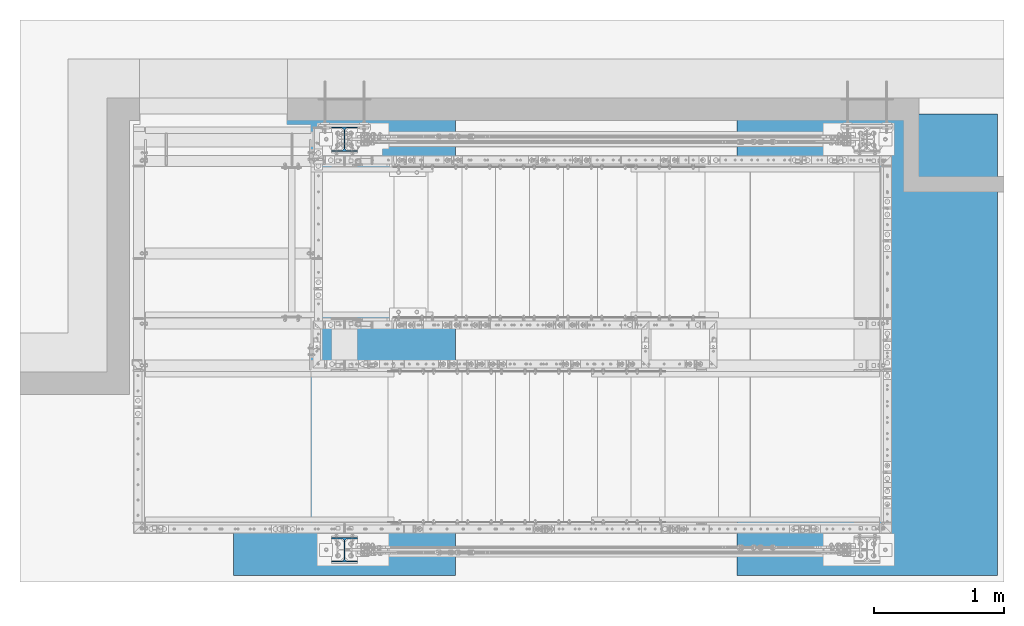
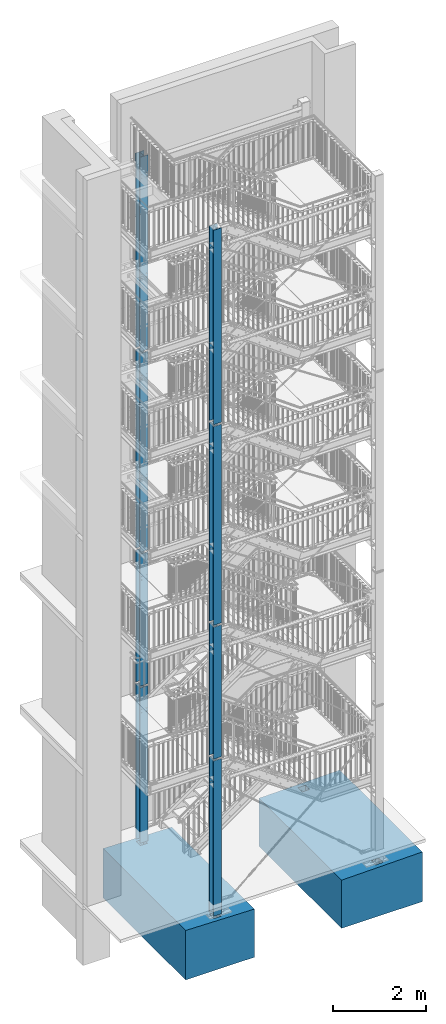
# One storey, part 1 of 817: 8 columns, 2 footings, 64 openings.
"""IFC2X3 building model written with IfcOpenShell, lengths in millimetres."""

from ifc_helpers import new_model, entity, si_unit, converted_unit, frame, origin, origin_with_axes, origin_2d, origin_2d_with_axis, place, context, project, spatial, polyline, circle, i_section, outline, extrude, clip, halfspace, material, layer, layer_set, element, save


model = new_model("IFC2X3")

# Units and contexts
model_context = context("Model", 3, precision=1e-09, world=origin_with_axes())
ifc_project = project(units=[si_unit("LENGTHUNIT", "METRE", prefix="MILLI"), si_unit("AREAUNIT", "SQUARE_METRE"), si_unit("VOLUMEUNIT", "CUBIC_METRE"), converted_unit("PLANEANGLEUNIT", "DEGREE", entity("IfcPlaneAngleMeasure", 0.01745329), si_unit("PLANEANGLEUNIT", "RADIAN"), dimensions=[0, 0, 0, 0, 0, 0, 0])], contexts=[model_context])

# Site, building, storey
site_placement = place(None, origin_with_axes())
site = spatial("IfcSite", under=ifc_project, at=site_placement, Name="Cnopf'sche Kinderklinik", CompositionType="ELEMENT")
building_placement = place(site_placement, origin_with_axes())
building = spatial("IfcBuilding", under=site, at=building_placement, Name="Struktur 1", CompositionType="ELEMENT")
storey_placement = place(building_placement, origin_with_axes())
storey = spatial("IfcBuildingStorey", under=building, at=storey_placement, Name="Default Storey", CompositionType="ELEMENT", Elevation=0.0)

# Footing, openings
ifc_material_1 = material(Name="C20/25")
ifc_layer = layer(ifc_material_1, 1300.0)
ifc_layer_set = layer_set([ifc_layer], Name="C20/25")
footing_1_placement = place(None, frame((8866.713402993, 5941.736971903, -1280.0), z_axis=(0.0, 0.0, 1.0), x_axis=(1.0, 0.0, 0.0)))
footing_1 = element("IfcFooting", 1, at=footing_1_placement, inside=storey, material=ifc_layer_set, Name="Foundation", ObjectType="Foundation", context=model_context, shape_type="SweptSolid", body=[
    extrude(outline(polyline([(-1000.0, -1770.0), (1000.0, -1770.0), (1000.0, 1770.0), (-1000.0, 1770.0), (-1000.0, -1770.0)])), origin_with_axes(), (0.0, 0.0, 1.0), 1300.0),
])
opening_1_placement = place(footing_1_placement, frame((0.0, 1770.1, 650.0), z_axis=(0.0, -1.0, 0.0), x_axis=(1.0, 0.0, 0.0)))
element("IfcOpeningElement", 2, at=opening_1_placement, cuts=footing_1, ObjectType="Opening", context=model_context, shape_type="SweptSolid", body=[
    extrude(outline(polyline([(-1237.486642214, 605.249266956), (1326.252549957, 656.524050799), (1326.252549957, 820.352725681), (-1212.417197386, 820.352725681), (-1237.486642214, 605.249266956)])), origin(), (0.0, 0.0, 1.0), 3540.2),
])
opening_2_placement = place(footing_1_placement, frame((0.0, 0.0, 1090.0), z_axis=(0.0, 0.0, 1.0), x_axis=(1.0, 0.0, 0.0)))
element("IfcOpeningElement", 3, at=opening_2_placement, cuts=footing_1, ObjectType="Opening", context=model_context, shape_type="SweptSolid", body=[
    extrude(outline(polyline([(-90.001, 1484.999), (90.001, 1484.999), (90.001, 1665.001), (-90.001, 1665.001), (-90.001, 1484.999)])), origin(), (0.0, 0.0, 1.0), 210.1),
])
opening_3_placement = place(footing_1_placement, frame((0.0, 0.0, 1090.0), z_axis=(0.0, 0.0, 1.0), x_axis=(1.0, 0.0, 0.0)))
element("IfcOpeningElement", 4, at=opening_3_placement, cuts=footing_1, ObjectType="Opening", context=model_context, shape_type="SweptSolid", body=[
    extrude(outline(polyline([(-90.001, -1665.001), (90.001, -1665.001), (90.001, -1484.999), (-90.001, -1484.999), (-90.001, -1665.001)])), origin(), (0.0, 0.0, 1.0), 210.1),
])

footing_2_placement = place(None, frame((4856.713402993, 5941.736971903, -1280.0), z_axis=(0.0, 0.0, 1.0), x_axis=(1.0, 0.0, 0.0)))
footing_2 = element("IfcFooting", 5, at=footing_2_placement, inside=storey, material=ifc_layer_set, Name="Foundation", ObjectType="Foundation", context=model_context, shape_type="SweptSolid", body=[
    extrude(outline(polyline([(-850.0, -1770.0), (850.0, -1770.0), (850.0, 1770.0), (-850.0, 1770.0), (-850.0, -1770.0)])), origin_with_axes(), (0.0, 0.0, 1.0), 1300.0),
])
opening_4_placement = place(footing_2_placement, frame((0.0, 1770.1, 650.0), z_axis=(0.0, -1.0, 0.0), x_axis=(1.0, 0.0, 0.0)))
element("IfcOpeningElement", 6, at=opening_4_placement, cuts=footing_2, ObjectType="Opening", context=model_context, shape_type="SweptSolid", body=[
    extrude(outline(polyline([(1029.872382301, 800.718084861), (-1082.160017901, 800.718084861), (-1082.160017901, 649.778764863), (1172.238609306, 603.364675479), (1029.872382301, 800.718084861)])), origin(), (0.0, 0.0, 1.0), 3540.2),
])
opening_5_placement = place(footing_2_placement, frame((0.0, 0.0, 1090.0), z_axis=(0.0, 0.0, 1.0), x_axis=(1.0, 0.0, 0.0)))
element("IfcOpeningElement", 7, at=opening_5_placement, cuts=footing_2, ObjectType="Opening", context=model_context, shape_type="SweptSolid", body=[
    extrude(outline(polyline([(-90.001, -1665.001), (90.001, -1665.001), (90.001, -1484.999), (-90.001, -1484.999), (-90.001, -1665.001)])), origin(), (0.0, 0.0, 1.0), 210.1),
])
opening_6_placement = place(footing_2_placement, frame((0.0, 0.0, 1090.0), z_axis=(0.0, 0.0, 1.0), x_axis=(1.0, 0.0, 0.0)))
element("IfcOpeningElement", 8, at=opening_6_placement, cuts=footing_2, ObjectType="Opening", context=model_context, shape_type="SweptSolid", body=[
    extrude(outline(polyline([(-90.001, 1484.999), (90.001, 1484.999), (90.001, 1665.001), (-90.001, 1665.001), (-90.001, 1484.999)])), origin(), (0.0, 0.0, 1.0), 210.1),
])

# Column, openings
ifc_material_2 = material(Name="S235JR")
column_1_placement = place(None, frame((4856.713402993, 7516.736971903, 60.0), z_axis=(0.0, 0.0, -1.0), x_axis=(1.0, 0.0, 0.0)))
column_1 = element("IfcColumn", 9, at=column_1_placement, inside=storey, material=ifc_material_2, Name="Column", ObjectType="Column", context=model_context, shape_type="Clipping", body=[
    clip(extrude(i_section(OverallWidth=200.0, OverallDepth=190.0, WebThickness=6.5, FlangeThickness=10.0, FilletRadius=18.0, at=origin_2d()), origin(), (0.0, 0.0, -1.0), 4227.931142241), halfspace(frame((-4856.713402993, 7516.736971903, -4064.999), z_axis=(0.0, 0.0, 1.0), x_axis=(-1.0, 0.0, 0.0)), True)),
])
opening_7_placement = place(column_1_placement, frame((-3.75, 60.0, -12.0), z_axis=(1.0, 0.0, 0.0), x_axis=(0.0, 0.0, -1.0)))
element("IfcOpeningElement", 10, at=opening_7_placement, cuts=column_1, ObjectType="Opening", context=model_context, shape_type="SweptSolid", body=[
    extrude(circle(Radius=6.001, at=origin_2d_with_axis()), origin(), (0.0, 0.0, 1.0), 7.5),
])
opening_8_placement = place(column_1_placement, frame((-3.75, -60.0, -12.0), z_axis=(1.0, 0.0, 0.0), x_axis=(0.0, 0.0, -1.0)))
element("IfcOpeningElement", 11, at=opening_8_placement, cuts=column_1, ObjectType="Opening", context=model_context, shape_type="SweptSolid", body=[
    extrude(circle(Radius=6.001, at=origin_2d_with_axis()), origin(), (0.0, 0.0, 1.0), 7.5),
])
opening_9_placement = place(column_1_placement, frame((-60.0, 84.5, -3407.0), z_axis=(0.0, 1.0, 0.0), x_axis=(-1.0, 0.0, 0.0)))
element("IfcOpeningElement", 12, at=opening_9_placement, cuts=column_1, ObjectType="Opening", context=model_context, shape_type="SweptSolid", body=[
    extrude(circle(Radius=9.001, at=origin_2d_with_axis()), origin(), (0.0, 0.0, 1.0), 11.0),
])
opening_10_placement = place(column_1_placement, frame((60.0, 84.5, -3407.0), z_axis=(0.0, 1.0, 0.0), x_axis=(1.0, 0.0, 0.0)))
element("IfcOpeningElement", 13, at=opening_10_placement, cuts=column_1, ObjectType="Opening", context=model_context, shape_type="SweptSolid", body=[
    extrude(circle(Radius=9.001, at=origin_2d_with_axis()), origin(), (0.0, 0.0, 1.0), 11.0),
])
opening_11_placement = place(column_1_placement, frame((60.0, 84.5, -3497.0), z_axis=(0.0, 1.0, 0.0), x_axis=(1.0, 0.0, 0.0)))
element("IfcOpeningElement", 14, at=opening_11_placement, cuts=column_1, ObjectType="Opening", context=model_context, shape_type="SweptSolid", body=[
    extrude(circle(Radius=9.001, at=origin_2d_with_axis()), origin(), (0.0, 0.0, 1.0), 11.0),
])
opening_12_placement = place(column_1_placement, frame((-60.0, 84.5, -3497.0), z_axis=(0.0, 1.0, 0.0), x_axis=(-1.0, 0.0, 0.0)))
element("IfcOpeningElement", 15, at=opening_12_placement, cuts=column_1, ObjectType="Opening", context=model_context, shape_type="SweptSolid", body=[
    extrude(circle(Radius=9.001, at=origin_2d_with_axis()), origin(), (0.0, 0.0, 1.0), 11.0),
])

column_2_placement = place(None, frame((4856.713402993, 4366.736971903, 60.0), z_axis=(0.0, 0.0, -1.0), x_axis=(1.0, 0.0, 0.0)))
column_2 = element("IfcColumn", 16, at=column_2_placement, inside=storey, material=ifc_material_2, Name="Column", ObjectType="Column", context=model_context, shape_type="Clipping", body=[
    clip(extrude(i_section(OverallWidth=200.0, OverallDepth=190.0, WebThickness=6.5, FlangeThickness=10.0, FilletRadius=18.0, at=origin_2d()), origin(), (0.0, 0.0, -1.0), 4227.931142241), halfspace(frame((-4856.713402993, 4366.736971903, -4064.999), z_axis=(0.0, 0.0, 1.0), x_axis=(-1.0, 0.0, 0.0)), True)),
])
opening_13_placement = place(column_2_placement, frame((-3.75, 60.0, -12.0), z_axis=(1.0, 0.0, 0.0), x_axis=(0.0, 0.0, -1.0)))
element("IfcOpeningElement", 17, at=opening_13_placement, cuts=column_2, ObjectType="Opening", context=model_context, shape_type="SweptSolid", body=[
    extrude(circle(Radius=6.001, at=origin_2d_with_axis()), origin(), (0.0, 0.0, 1.0), 7.5),
])
opening_14_placement = place(column_2_placement, frame((-3.75, -60.0, -12.0), z_axis=(1.0, 0.0, 0.0), x_axis=(0.0, 0.0, -1.0)))
element("IfcOpeningElement", 18, at=opening_14_placement, cuts=column_2, ObjectType="Opening", context=model_context, shape_type="SweptSolid", body=[
    extrude(circle(Radius=6.001, at=origin_2d_with_axis()), origin(), (0.0, 0.0, 1.0), 7.5),
])
opening_15_placement = place(column_2_placement, frame((-60.0, -84.5, -3407.0), z_axis=(0.0, -1.0, 0.0), x_axis=(-1.0, 0.0, 0.0)))
element("IfcOpeningElement", 19, at=opening_15_placement, cuts=column_2, ObjectType="Opening", context=model_context, shape_type="SweptSolid", body=[
    extrude(circle(Radius=9.001, at=origin_2d_with_axis()), origin(), (0.0, 0.0, 1.0), 11.0),
])
opening_16_placement = place(column_2_placement, frame((60.0, -84.5, -3407.0), z_axis=(0.0, -1.0, 0.0), x_axis=(1.0, 0.0, 0.0)))
element("IfcOpeningElement", 20, at=opening_16_placement, cuts=column_2, ObjectType="Opening", context=model_context, shape_type="SweptSolid", body=[
    extrude(circle(Radius=9.001, at=origin_2d_with_axis()), origin(), (0.0, 0.0, 1.0), 11.0),
])
opening_17_placement = place(column_2_placement, frame((60.0, -84.5, -3497.0), z_axis=(0.0, -1.0, 0.0), x_axis=(1.0, 0.0, 0.0)))
element("IfcOpeningElement", 21, at=opening_17_placement, cuts=column_2, ObjectType="Opening", context=model_context, shape_type="SweptSolid", body=[
    extrude(circle(Radius=9.001, at=origin_2d_with_axis()), origin(), (0.0, 0.0, 1.0), 11.0),
])
opening_18_placement = place(column_2_placement, frame((-60.0, -84.5, -3497.0), z_axis=(0.0, -1.0, 0.0), x_axis=(-1.0, 0.0, 0.0)))
element("IfcOpeningElement", 22, at=opening_18_placement, cuts=column_2, ObjectType="Opening", context=model_context, shape_type="SweptSolid", body=[
    extrude(circle(Radius=9.001, at=origin_2d_with_axis()), origin(), (0.0, 0.0, 1.0), 11.0),
])

column_3_placement = place(None, frame((4856.713402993, 4366.736971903, 4012.068857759), z_axis=(0.0, 0.0, -1.0), x_axis=(1.0, 0.0, 0.0)))
column_3 = element("IfcColumn", 23, at=column_3_placement, inside=storey, material=ifc_material_2, Name="Column", ObjectType="Column", context=model_context, shape_type="Clipping", body=[
    clip(clip(extrude(i_section(OverallWidth=200.0, OverallDepth=190.0, WebThickness=6.5, FlangeThickness=10.0, FilletRadius=18.0, at=origin_2d()), origin(), (0.0, 0.0, -1.0), 3775.862284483), halfspace(frame((-4856.713402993, 4366.736971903, -162.932142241), z_axis=(0.0, 0.0, -1.0), x_axis=(1.0, 0.0, 0.0)), True)), halfspace(frame((-4856.713402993, 4366.736971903, -3612.930142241), z_axis=(0.0, 0.0, 1.0), x_axis=(-1.0, 0.0, 0.0)), True)),
])
opening_19_placement = place(column_3_placement, frame((-60.0, -84.5, -3017.931142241), z_axis=(0.0, -1.0, 0.0), x_axis=(-1.0, 0.0, 0.0)))
element("IfcOpeningElement", 24, at=opening_19_placement, cuts=column_3, ObjectType="Opening", context=model_context, shape_type="SweptSolid", body=[
    extrude(circle(Radius=9.001, at=origin_2d_with_axis()), origin(), (0.0, 0.0, 1.0), 11.0),
])
opening_20_placement = place(column_3_placement, frame((60.0, -84.5, -3017.931142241), z_axis=(0.0, -1.0, 0.0), x_axis=(1.0, 0.0, 0.0)))
element("IfcOpeningElement", 25, at=opening_20_placement, cuts=column_3, ObjectType="Opening", context=model_context, shape_type="SweptSolid", body=[
    extrude(circle(Radius=9.001, at=origin_2d_with_axis()), origin(), (0.0, 0.0, 1.0), 11.0),
])
opening_21_placement = place(column_3_placement, frame((-60.0, -84.5, -2927.931142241), z_axis=(0.0, -1.0, 0.0), x_axis=(-1.0, 0.0, 0.0)))
element("IfcOpeningElement", 26, at=opening_21_placement, cuts=column_3, ObjectType="Opening", context=model_context, shape_type="SweptSolid", body=[
    extrude(circle(Radius=9.001, at=origin_2d_with_axis()), origin(), (0.0, 0.0, 1.0), 11.0),
])
opening_22_placement = place(column_3_placement, frame((60.0, -84.5, -2927.931142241), z_axis=(0.0, -1.0, 0.0), x_axis=(1.0, 0.0, 0.0)))
element("IfcOpeningElement", 27, at=opening_22_placement, cuts=column_3, ObjectType="Opening", context=model_context, shape_type="SweptSolid", body=[
    extrude(circle(Radius=9.001, at=origin_2d_with_axis()), origin(), (0.0, 0.0, 1.0), 11.0),
])

column_4_placement = place(None, frame((4856.713402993, 7516.736971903, 4012.068857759), z_axis=(0.0, 0.0, -1.0), x_axis=(1.0, 0.0, 0.0)))
column_4 = element("IfcColumn", 28, at=column_4_placement, inside=storey, material=ifc_material_2, Name="Column", ObjectType="Column", context=model_context, shape_type="Clipping", body=[
    clip(clip(extrude(i_section(OverallWidth=200.0, OverallDepth=190.0, WebThickness=6.5, FlangeThickness=10.0, FilletRadius=18.0, at=origin_2d()), origin(), (0.0, 0.0, -1.0), 3775.862284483), halfspace(frame((-4856.713402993, 7516.736971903, -162.932142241), z_axis=(0.0, 0.0, -1.0), x_axis=(1.0, 0.0, 0.0)), True)), halfspace(frame((-4856.713402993, 7516.736971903, -3612.930142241), z_axis=(0.0, 0.0, 1.0), x_axis=(-1.0, 0.0, 0.0)), True)),
])
opening_23_placement = place(column_4_placement, frame((60.0, 84.5, -3017.931142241), z_axis=(0.0, 1.0, 0.0), x_axis=(1.0, 0.0, 0.0)))
element("IfcOpeningElement", 29, at=opening_23_placement, cuts=column_4, ObjectType="Opening", context=model_context, shape_type="SweptSolid", body=[
    extrude(circle(Radius=9.001, at=origin_2d_with_axis()), origin(), (0.0, 0.0, 1.0), 11.0),
])
opening_24_placement = place(column_4_placement, frame((60.0, 84.5, -2927.931142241), z_axis=(0.0, 1.0, 0.0), x_axis=(1.0, 0.0, 0.0)))
element("IfcOpeningElement", 30, at=opening_24_placement, cuts=column_4, ObjectType="Opening", context=model_context, shape_type="SweptSolid", body=[
    extrude(circle(Radius=9.001, at=origin_2d_with_axis()), origin(), (0.0, 0.0, 1.0), 11.0),
])
opening_25_placement = place(column_4_placement, frame((-60.0, 84.5, -3017.931142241), z_axis=(0.0, 1.0, 0.0), x_axis=(-1.0, 0.0, 0.0)))
element("IfcOpeningElement", 31, at=opening_25_placement, cuts=column_4, ObjectType="Opening", context=model_context, shape_type="SweptSolid", body=[
    extrude(circle(Radius=9.001, at=origin_2d_with_axis()), origin(), (0.0, 0.0, 1.0), 11.0),
])
opening_26_placement = place(column_4_placement, frame((-60.0, 84.5, -2927.931142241), z_axis=(0.0, 1.0, 0.0), x_axis=(-1.0, 0.0, 0.0)))
element("IfcOpeningElement", 32, at=opening_26_placement, cuts=column_4, ObjectType="Opening", context=model_context, shape_type="SweptSolid", body=[
    extrude(circle(Radius=9.001, at=origin_2d_with_axis()), origin(), (0.0, 0.0, 1.0), 11.0),
])

column_5_placement = place(None, frame((4856.713402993, 7516.736971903, 7512.068857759), z_axis=(0.0, 0.0, -1.0), x_axis=(1.0, 0.0, 0.0)))
column_5 = element("IfcColumn", 33, at=column_5_placement, inside=storey, material=ifc_material_2, Name="Column", ObjectType="Column", context=model_context, shape_type="Clipping", body=[
    clip(clip(extrude(i_section(OverallWidth=200.0, OverallDepth=190.0, WebThickness=6.5, FlangeThickness=10.0, FilletRadius=18.0, at=origin_2d()), origin(), (0.0, 0.0, -1.0), 5525.862284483), halfspace(frame((-4856.713402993, 7516.736971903, -162.932142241), z_axis=(0.0, 0.0, -1.0), x_axis=(1.0, 0.0, 0.0)), True)), halfspace(frame((-4856.713402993, 7516.736971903, -5362.930142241), z_axis=(0.0, 0.0, 1.0), x_axis=(-1.0, 0.0, 0.0)), True)),
])
opening_27_placement = place(column_5_placement, frame((-60.0, 84.5, -2149.931142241), z_axis=(0.0, 1.0, 0.0), x_axis=(-1.0, 0.0, 0.0)))
element("IfcOpeningElement", 34, at=opening_27_placement, cuts=column_5, ObjectType="Opening", context=model_context, shape_type="SweptSolid", body=[
    extrude(circle(Radius=9.001, at=origin_2d_with_axis()), origin(), (0.0, 0.0, 1.0), 11.0),
])
opening_28_placement = place(column_5_placement, frame((60.0, 84.5, -2059.931142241), z_axis=(0.0, 1.0, 0.0), x_axis=(1.0, 0.0, 0.0)))
element("IfcOpeningElement", 35, at=opening_28_placement, cuts=column_5, ObjectType="Opening", context=model_context, shape_type="SweptSolid", body=[
    extrude(circle(Radius=9.001, at=origin_2d_with_axis()), origin(), (0.0, 0.0, 1.0), 11.0),
])
opening_29_placement = place(column_5_placement, frame((60.0, 84.5, -4686.931142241), z_axis=(0.0, 1.0, 0.0), x_axis=(1.0, 0.0, 0.0)))
element("IfcOpeningElement", 36, at=opening_29_placement, cuts=column_5, ObjectType="Opening", context=model_context, shape_type="SweptSolid", body=[
    extrude(circle(Radius=9.001, at=origin_2d_with_axis()), origin(), (0.0, 0.0, 1.0), 11.0),
])
opening_30_placement = place(column_5_placement, frame((-60.0, 84.5, -4776.931142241), z_axis=(0.0, 1.0, 0.0), x_axis=(-1.0, 0.0, 0.0)))
element("IfcOpeningElement", 37, at=opening_30_placement, cuts=column_5, ObjectType="Opening", context=model_context, shape_type="SweptSolid", body=[
    extrude(circle(Radius=9.001, at=origin_2d_with_axis()), origin(), (0.0, 0.0, 1.0), 11.0),
])
opening_31_placement = place(column_5_placement, frame((60.0, 84.5, -2149.931142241), z_axis=(0.0, 1.0, 0.0), x_axis=(1.0, 0.0, 0.0)))
element("IfcOpeningElement", 38, at=opening_31_placement, cuts=column_5, ObjectType="Opening", context=model_context, shape_type="SweptSolid", body=[
    extrude(circle(Radius=9.001, at=origin_2d_with_axis()), origin(), (0.0, 0.0, 1.0), 11.0),
])
opening_32_placement = place(column_5_placement, frame((-60.0, 84.5, -4686.931142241), z_axis=(0.0, 1.0, 0.0), x_axis=(-1.0, 0.0, 0.0)))
element("IfcOpeningElement", 39, at=opening_32_placement, cuts=column_5, ObjectType="Opening", context=model_context, shape_type="SweptSolid", body=[
    extrude(circle(Radius=9.001, at=origin_2d_with_axis()), origin(), (0.0, 0.0, 1.0), 11.0),
])
opening_33_placement = place(column_5_placement, frame((-60.0, 84.5, -2059.931142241), z_axis=(0.0, 1.0, 0.0), x_axis=(-1.0, 0.0, 0.0)))
element("IfcOpeningElement", 40, at=opening_33_placement, cuts=column_5, ObjectType="Opening", context=model_context, shape_type="SweptSolid", body=[
    extrude(circle(Radius=9.001, at=origin_2d_with_axis()), origin(), (0.0, 0.0, 1.0), 11.0),
])
opening_34_placement = place(column_5_placement, frame((60.0, 84.5, -4776.931142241), z_axis=(0.0, 1.0, 0.0), x_axis=(1.0, 0.0, 0.0)))
element("IfcOpeningElement", 41, at=opening_34_placement, cuts=column_5, ObjectType="Opening", context=model_context, shape_type="SweptSolid", body=[
    extrude(circle(Radius=9.001, at=origin_2d_with_axis()), origin(), (0.0, 0.0, 1.0), 11.0),
])

column_6_placement = place(None, frame((4856.713402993, 7516.736971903, 12762.068857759), z_axis=(0.0, 0.0, -1.0), x_axis=(1.0, 0.0, 0.0)))
column_6 = element("IfcColumn", 42, at=column_6_placement, inside=storey, material=ifc_material_2, Name="Column", ObjectType="Column", context=model_context, shape_type="Clipping", body=[
    clip(extrude(i_section(OverallWidth=200.0, OverallDepth=190.0, WebThickness=6.5, FlangeThickness=10.0, FilletRadius=18.0, at=origin_2d()), origin(), (0.0, 0.0, -1.0), 5251.931142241), halfspace(frame((-4856.713402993, 7516.736971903, -162.932142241), z_axis=(0.0, 0.0, -1.0), x_axis=(1.0, 0.0, 0.0)), True)),
])
opening_35_placement = place(column_6_placement, frame((-60.0, 84.5, -4781.93114224), z_axis=(0.0, 1.0, 0.0), x_axis=(-1.0, 0.0, 0.0)))
element("IfcOpeningElement", 43, at=opening_35_placement, cuts=column_6, ObjectType="Opening", context=model_context, shape_type="SweptSolid", body=[
    extrude(circle(Radius=9.001, at=origin_2d_with_axis()), origin(), (0.0, 0.0, 1.0), 11.0),
])
opening_36_placement = place(column_6_placement, frame((-60.0, 84.5, -4691.93114224), z_axis=(0.0, 1.0, 0.0), x_axis=(-1.0, 0.0, 0.0)))
element("IfcOpeningElement", 44, at=opening_36_placement, cuts=column_6, ObjectType="Opening", context=model_context, shape_type="SweptSolid", body=[
    extrude(circle(Radius=9.001, at=origin_2d_with_axis()), origin(), (0.0, 0.0, 1.0), 11.0),
])
opening_37_placement = place(column_6_placement, frame((3.75, 35.0, -5011.93114224), z_axis=(-1.0, 0.0, 0.0), x_axis=(0.0, 1.0, 0.0)))
element("IfcOpeningElement", 45, at=opening_37_placement, cuts=column_6, ObjectType="Opening", context=model_context, shape_type="SweptSolid", body=[
    extrude(circle(Radius=9.001, at=origin_2d_with_axis()), origin(), (0.0, 0.0, 1.0), 7.5),
])
opening_38_placement = place(column_6_placement, frame((60.0, 84.5, -4691.93114224), z_axis=(0.0, 1.0, 0.0), x_axis=(1.0, 0.0, 0.0)))
element("IfcOpeningElement", 46, at=opening_38_placement, cuts=column_6, ObjectType="Opening", context=model_context, shape_type="SweptSolid", body=[
    extrude(circle(Radius=9.001, at=origin_2d_with_axis()), origin(), (0.0, 0.0, 1.0), 11.0),
])
opening_39_placement = place(column_6_placement, frame((3.75, -35.0, -5011.93114224), z_axis=(-1.0, 0.0, 0.0), x_axis=(0.0, -1.0, 0.0)))
element("IfcOpeningElement", 47, at=opening_39_placement, cuts=column_6, ObjectType="Opening", context=model_context, shape_type="SweptSolid", body=[
    extrude(circle(Radius=9.001, at=origin_2d_with_axis()), origin(), (0.0, 0.0, 1.0), 7.5),
])
opening_40_placement = place(column_6_placement, frame((3.75, 35.0, -4891.93114224), z_axis=(-1.0, 0.0, 0.0), x_axis=(0.0, 1.0, 0.0)))
element("IfcOpeningElement", 48, at=opening_40_placement, cuts=column_6, ObjectType="Opening", context=model_context, shape_type="SweptSolid", body=[
    extrude(circle(Radius=9.001, at=origin_2d_with_axis()), origin(), (0.0, 0.0, 1.0), 7.5),
])
opening_41_placement = place(column_6_placement, frame((3.75, -35.0, -4891.93114224), z_axis=(-1.0, 0.0, 0.0), x_axis=(0.0, -1.0, 0.0)))
element("IfcOpeningElement", 49, at=opening_41_placement, cuts=column_6, ObjectType="Opening", context=model_context, shape_type="SweptSolid", body=[
    extrude(circle(Radius=9.001, at=origin_2d_with_axis()), origin(), (0.0, 0.0, 1.0), 7.5),
])
opening_42_placement = place(column_6_placement, frame((3.75, -35.0, -5111.93114224), z_axis=(-1.0, 0.0, 0.0), x_axis=(0.0, -1.0, 0.0)))
element("IfcOpeningElement", 50, at=opening_42_placement, cuts=column_6, ObjectType="Opening", context=model_context, shape_type="SweptSolid", body=[
    extrude(circle(Radius=9.001, at=origin_2d_with_axis()), origin(), (0.0, 0.0, 1.0), 7.5),
])
opening_43_placement = place(column_6_placement, frame((60.0, 84.5, -4781.93114224), z_axis=(0.0, 1.0, 0.0), x_axis=(1.0, 0.0, 0.0)))
element("IfcOpeningElement", 51, at=opening_43_placement, cuts=column_6, ObjectType="Opening", context=model_context, shape_type="SweptSolid", body=[
    extrude(circle(Radius=9.001, at=origin_2d_with_axis()), origin(), (0.0, 0.0, 1.0), 11.0),
])
opening_44_placement = place(column_6_placement, frame((3.75, 35.0, -5111.93114224), z_axis=(-1.0, 0.0, 0.0), x_axis=(0.0, 1.0, 0.0)))
element("IfcOpeningElement", 52, at=opening_44_placement, cuts=column_6, ObjectType="Opening", context=model_context, shape_type="SweptSolid", body=[
    extrude(circle(Radius=9.001, at=origin_2d_with_axis()), origin(), (0.0, 0.0, 1.0), 7.5),
])
opening_45_placement = place(column_6_placement, frame((60.0, 84.5, -2071.931142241), z_axis=(0.0, 1.0, 0.0), x_axis=(1.0, 0.0, 0.0)))
element("IfcOpeningElement", 53, at=opening_45_placement, cuts=column_6, ObjectType="Opening", context=model_context, shape_type="SweptSolid", body=[
    extrude(circle(Radius=9.001, at=origin_2d_with_axis()), origin(), (0.0, 0.0, 1.0), 11.0),
])
opening_46_placement = place(column_6_placement, frame((-60.0, 84.5, -2161.931142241), z_axis=(0.0, 1.0, 0.0), x_axis=(-1.0, 0.0, 0.0)))
element("IfcOpeningElement", 54, at=opening_46_placement, cuts=column_6, ObjectType="Opening", context=model_context, shape_type="SweptSolid", body=[
    extrude(circle(Radius=9.001, at=origin_2d_with_axis()), origin(), (0.0, 0.0, 1.0), 11.0),
])
opening_47_placement = place(column_6_placement, frame((60.0, 84.5, -2161.931142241), z_axis=(0.0, 1.0, 0.0), x_axis=(1.0, 0.0, 0.0)))
element("IfcOpeningElement", 55, at=opening_47_placement, cuts=column_6, ObjectType="Opening", context=model_context, shape_type="SweptSolid", body=[
    extrude(circle(Radius=9.001, at=origin_2d_with_axis()), origin(), (0.0, 0.0, 1.0), 11.0),
])
opening_48_placement = place(column_6_placement, frame((-60.0, 84.5, -2071.931142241), z_axis=(0.0, 1.0, 0.0), x_axis=(-1.0, 0.0, 0.0)))
element("IfcOpeningElement", 56, at=opening_48_placement, cuts=column_6, ObjectType="Opening", context=model_context, shape_type="SweptSolid", body=[
    extrude(circle(Radius=9.001, at=origin_2d_with_axis()), origin(), (0.0, 0.0, 1.0), 11.0),
])

column_7_placement = place(None, frame((4856.713402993, 4366.736971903, 7512.068857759), z_axis=(0.0, 0.0, -1.0), x_axis=(1.0, 0.0, 0.0)))
column_7 = element("IfcColumn", 57, at=column_7_placement, inside=storey, material=ifc_material_2, Name="Column", ObjectType="Column", context=model_context, shape_type="Clipping", body=[
    clip(clip(extrude(i_section(OverallWidth=200.0, OverallDepth=190.0, WebThickness=6.5, FlangeThickness=10.0, FilletRadius=18.0, at=origin_2d()), origin(), (0.0, 0.0, -1.0), 5525.862284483), halfspace(frame((-4856.713402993, 4366.736971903, -162.932142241), z_axis=(0.0, 0.0, -1.0), x_axis=(1.0, 0.0, 0.0)), True)), halfspace(frame((-4856.713402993, 4366.736971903, -5362.930142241), z_axis=(0.0, 0.0, 1.0), x_axis=(-1.0, 0.0, 0.0)), True)),
])
opening_49_placement = place(column_7_placement, frame((60.0, -84.5, -2059.931142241), z_axis=(0.0, -1.0, 0.0), x_axis=(1.0, 0.0, 0.0)))
element("IfcOpeningElement", 58, at=opening_49_placement, cuts=column_7, ObjectType="Opening", context=model_context, shape_type="SweptSolid", body=[
    extrude(circle(Radius=9.001, at=origin_2d_with_axis()), origin(), (0.0, 0.0, 1.0), 11.0),
])
opening_50_placement = place(column_7_placement, frame((60.0, -84.5, -2149.931142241), z_axis=(0.0, -1.0, 0.0), x_axis=(1.0, 0.0, 0.0)))
element("IfcOpeningElement", 59, at=opening_50_placement, cuts=column_7, ObjectType="Opening", context=model_context, shape_type="SweptSolid", body=[
    extrude(circle(Radius=9.001, at=origin_2d_with_axis()), origin(), (0.0, 0.0, 1.0), 11.0),
])
opening_51_placement = place(column_7_placement, frame((60.0, -84.5, -4686.931142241), z_axis=(0.0, -1.0, 0.0), x_axis=(1.0, 0.0, 0.0)))
element("IfcOpeningElement", 60, at=opening_51_placement, cuts=column_7, ObjectType="Opening", context=model_context, shape_type="SweptSolid", body=[
    extrude(circle(Radius=9.001, at=origin_2d_with_axis()), origin(), (0.0, 0.0, 1.0), 11.0),
])
opening_52_placement = place(column_7_placement, frame((60.0, -84.5, -4776.931142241), z_axis=(0.0, -1.0, 0.0), x_axis=(1.0, 0.0, 0.0)))
element("IfcOpeningElement", 61, at=opening_52_placement, cuts=column_7, ObjectType="Opening", context=model_context, shape_type="SweptSolid", body=[
    extrude(circle(Radius=9.001, at=origin_2d_with_axis()), origin(), (0.0, 0.0, 1.0), 11.0),
])
opening_53_placement = place(column_7_placement, frame((-60.0, -84.5, -2059.931142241), z_axis=(0.0, -1.0, 0.0), x_axis=(-1.0, 0.0, 0.0)))
element("IfcOpeningElement", 62, at=opening_53_placement, cuts=column_7, ObjectType="Opening", context=model_context, shape_type="SweptSolid", body=[
    extrude(circle(Radius=9.001, at=origin_2d_with_axis()), origin(), (0.0, 0.0, 1.0), 11.0),
])
opening_54_placement = place(column_7_placement, frame((-60.0, -84.5, -4686.931142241), z_axis=(0.0, -1.0, 0.0), x_axis=(-1.0, 0.0, 0.0)))
element("IfcOpeningElement", 63, at=opening_54_placement, cuts=column_7, ObjectType="Opening", context=model_context, shape_type="SweptSolid", body=[
    extrude(circle(Radius=9.001, at=origin_2d_with_axis()), origin(), (0.0, 0.0, 1.0), 11.0),
])
opening_55_placement = place(column_7_placement, frame((-60.0, -84.5, -4776.931142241), z_axis=(0.0, -1.0, 0.0), x_axis=(-1.0, 0.0, 0.0)))
element("IfcOpeningElement", 64, at=opening_55_placement, cuts=column_7, ObjectType="Opening", context=model_context, shape_type="SweptSolid", body=[
    extrude(circle(Radius=9.001, at=origin_2d_with_axis()), origin(), (0.0, 0.0, 1.0), 11.0),
])
opening_56_placement = place(column_7_placement, frame((-60.0, -84.5, -2149.931142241), z_axis=(0.0, -1.0, 0.0), x_axis=(-1.0, 0.0, 0.0)))
element("IfcOpeningElement", 65, at=opening_56_placement, cuts=column_7, ObjectType="Opening", context=model_context, shape_type="SweptSolid", body=[
    extrude(circle(Radius=9.001, at=origin_2d_with_axis()), origin(), (0.0, 0.0, 1.0), 11.0),
])

column_8_placement = place(None, frame((4856.713402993, 4366.736971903, 12762.068857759), z_axis=(0.0, 0.0, -1.0), x_axis=(1.0, 0.0, 0.0)))
column_8 = element("IfcColumn", 66, at=column_8_placement, inside=storey, material=ifc_material_2, Name="Column", ObjectType="Column", context=model_context, shape_type="Clipping", body=[
    clip(extrude(i_section(OverallWidth=200.0, OverallDepth=190.0, WebThickness=6.5, FlangeThickness=10.0, FilletRadius=18.0, at=origin_2d()), origin(), (0.0, 0.0, -1.0), 5251.931142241), halfspace(frame((-4856.713402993, 4366.736971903, -162.932142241), z_axis=(0.0, 0.0, -1.0), x_axis=(1.0, 0.0, 0.0)), True)),
])
opening_57_placement = place(column_8_placement, frame((-60.0, -84.5, -4691.93114224), z_axis=(0.0, -1.0, 0.0), x_axis=(-1.0, 0.0, 0.0)))
element("IfcOpeningElement", 67, at=opening_57_placement, cuts=column_8, ObjectType="Opening", context=model_context, shape_type="SweptSolid", body=[
    extrude(circle(Radius=9.001, at=origin_2d_with_axis()), origin(), (0.0, 0.0, 1.0), 11.0),
])
opening_58_placement = place(column_8_placement, frame((60.0, -84.5, -4781.93114224), z_axis=(0.0, -1.0, 0.0), x_axis=(1.0, 0.0, 0.0)))
element("IfcOpeningElement", 68, at=opening_58_placement, cuts=column_8, ObjectType="Opening", context=model_context, shape_type="SweptSolid", body=[
    extrude(circle(Radius=9.001, at=origin_2d_with_axis()), origin(), (0.0, 0.0, 1.0), 11.0),
])
opening_59_placement = place(column_8_placement, frame((60.0, -84.5, -4691.93114224), z_axis=(0.0, -1.0, 0.0), x_axis=(1.0, 0.0, 0.0)))
element("IfcOpeningElement", 69, at=opening_59_placement, cuts=column_8, ObjectType="Opening", context=model_context, shape_type="SweptSolid", body=[
    extrude(circle(Radius=9.001, at=origin_2d_with_axis()), origin(), (0.0, 0.0, 1.0), 11.0),
])
opening_60_placement = place(column_8_placement, frame((-60.0, -84.5, -4781.93114224), z_axis=(0.0, -1.0, 0.0), x_axis=(-1.0, 0.0, 0.0)))
element("IfcOpeningElement", 70, at=opening_60_placement, cuts=column_8, ObjectType="Opening", context=model_context, shape_type="SweptSolid", body=[
    extrude(circle(Radius=9.001, at=origin_2d_with_axis()), origin(), (0.0, 0.0, 1.0), 11.0),
])
opening_61_placement = place(column_8_placement, frame((-60.0, -84.5, -2161.931142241), z_axis=(0.0, -1.0, 0.0), x_axis=(-1.0, 0.0, 0.0)))
element("IfcOpeningElement", 71, at=opening_61_placement, cuts=column_8, ObjectType="Opening", context=model_context, shape_type="SweptSolid", body=[
    extrude(circle(Radius=9.001, at=origin_2d_with_axis()), origin(), (0.0, 0.0, 1.0), 11.0),
])
opening_62_placement = place(column_8_placement, frame((60.0, -84.5, -2161.931142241), z_axis=(0.0, -1.0, 0.0), x_axis=(1.0, 0.0, 0.0)))
element("IfcOpeningElement", 72, at=opening_62_placement, cuts=column_8, ObjectType="Opening", context=model_context, shape_type="SweptSolid", body=[
    extrude(circle(Radius=9.001, at=origin_2d_with_axis()), origin(), (0.0, 0.0, 1.0), 11.0),
])
opening_63_placement = place(column_8_placement, frame((-60.0, -84.5, -2071.931142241), z_axis=(0.0, -1.0, 0.0), x_axis=(-1.0, 0.0, 0.0)))
element("IfcOpeningElement", 73, at=opening_63_placement, cuts=column_8, ObjectType="Opening", context=model_context, shape_type="SweptSolid", body=[
    extrude(circle(Radius=9.001, at=origin_2d_with_axis()), origin(), (0.0, 0.0, 1.0), 11.0),
])
opening_64_placement = place(column_8_placement, frame((60.0, -84.5, -2071.931142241), z_axis=(0.0, -1.0, 0.0), x_axis=(1.0, 0.0, 0.0)))
element("IfcOpeningElement", 74, at=opening_64_placement, cuts=column_8, ObjectType="Opening", context=model_context, shape_type="SweptSolid", body=[
    extrude(circle(Radius=9.001, at=origin_2d_with_axis()), origin(), (0.0, 0.0, 1.0), 11.0),
])

save(model, "model.ifc")
